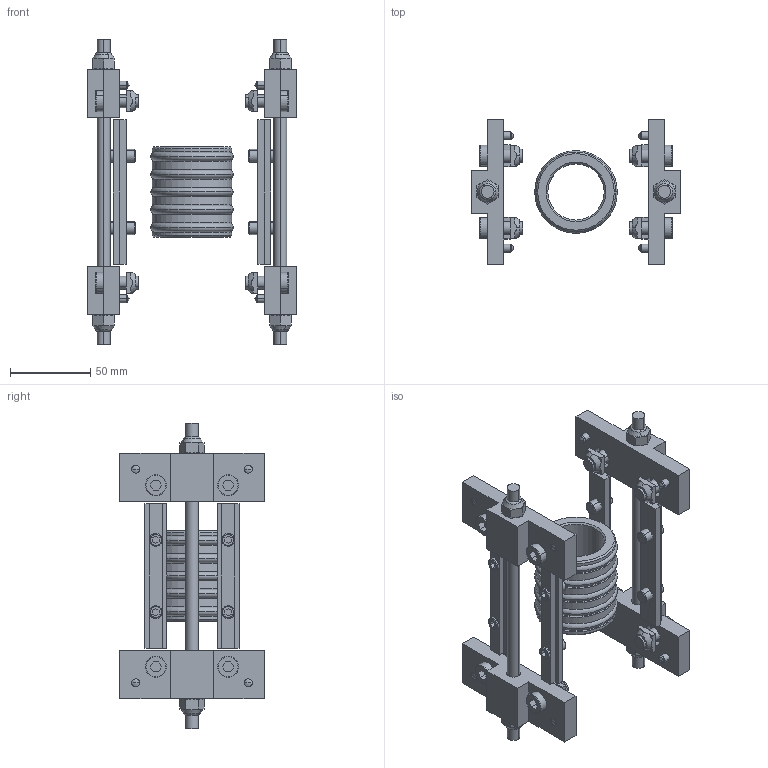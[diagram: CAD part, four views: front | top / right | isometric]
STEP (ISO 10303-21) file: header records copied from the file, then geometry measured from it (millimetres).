
FILE_DESCRIPTION (( 'STEP AP214' ), '1' );
FILE_NAME ('900.400.102.STEP', '2015-02-23T15:42:46', ( '' ), ( '' ), 'SwSTEP 2.0', 'SolidWorks 2012', '' );
FILE_SCHEMA (( 'AUTOMOTIVE_DESIGN' ));
Length unit declared in the file: millimetre
Products named in the file (11): 084.307.005; 800.024.106; GRANI A PUNTA PIATTA UNI 5923_M8x16 UNI 5923; 900.400.102; 084.302.000 DADI ALUSIC 13x13_084.302.004; 800.018.014; 084.301.000 VITI ALUSIC_084.301.012; 900.400.007; SPINE CILINDRICHE_5x16 UNI 1707; DADI ESAGONALI AUTOBLOCCANTI UNI 7473_M8 UNI 7473; GUARNIZIONI OR_OR 6162
Assembly tree (56 placements, depth 2):
  900.400.102
    900.400.007
    800.018.014  x4
    084.301.000 VITI ALUSIC_084.301.012  x8
    084.302.000 DADI ALUSIC 13x13_084.302.004  x8
    SPINE CILINDRICHE_5x16 UNI 1707  x8
    DADI ESAGONALI AUTOBLOCCANTI UNI 7473_M8 UNI 7473  x4
    GUARNIZIONI OR_OR 6162  x9
    800.024.106  x2
    084.307.005  x4
    GRANI A PUNTA PIATTA UNI 5923_M8x16 UNI 5923  x8
Bounding box: 130 x 90 x 190 mm (x, y, z)
Volume: 267198.1 mm3; surface area: 135004.9 mm2
Topology: 56 solids, 56 shells, 788 faces, 1772 edges, 1100 vertices
Faces by surface type: plane 364, cylinder 188, cone 128, torus 92, sphere 16
Entity records: 5810 total; most frequent: CARTESIAN_POINT 1021, DIRECTION 978, ORIENTED_EDGE 756, AXIS2_PLACEMENT_3D 399, EDGE_CURVE 378, VERTEX_POINT 238, EDGE_LOOP 206, VECTOR 180
